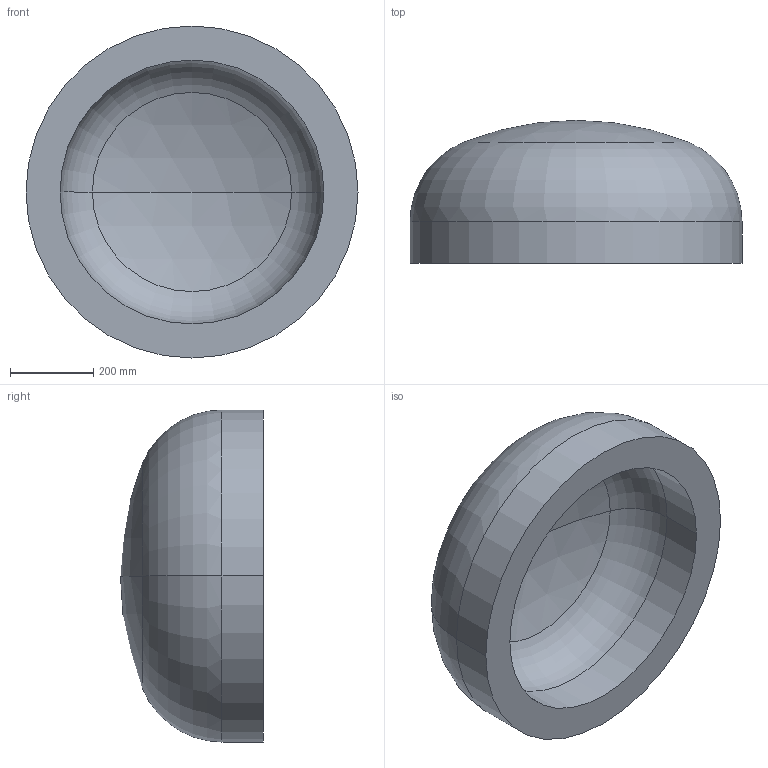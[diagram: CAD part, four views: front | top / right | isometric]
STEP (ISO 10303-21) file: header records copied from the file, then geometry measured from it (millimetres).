
FILE_DESCRIPTION (( 'STEP AP203' ), '1' );
FILE_NAME ('DIN 28013 Korbbogenform_-_Boden DIN 28013 - 800 x 100 - I - s=82.step', '2016-07-01T08:21:12', ( '' ), ( '' ), 'SwSTEP 2.0', 'SolidWorks 2013', '' );
FILE_SCHEMA (( 'CONFIG_CONTROL_DESIGN' ));
Length unit declared in the file: millimetre
Products named in the file (1): DIN 28013 Korbbogenform_-_Boden DIN 28013 - 800 x 100 - I - s=82
Bounding box: 800 x 344.53 x 800 mm (x, y, z)
Volume: 68948910 mm3; surface area: 1880727.6 mm2
Topology: 1 solids, 1 shells, 13 faces, 24 edges, 14 vertices
Faces by surface type: torus 4, cylinder 4, sphere 4, plane 1
Entity records: 407 total; most frequent: DIRECTION 72, CARTESIAN_POINT 52, ORIENTED_EDGE 48, AXIS2_PLACEMENT_3D 34, EDGE_CURVE 24, CIRCLE 20, EDGE_LOOP 14, VERTEX_POINT 14
